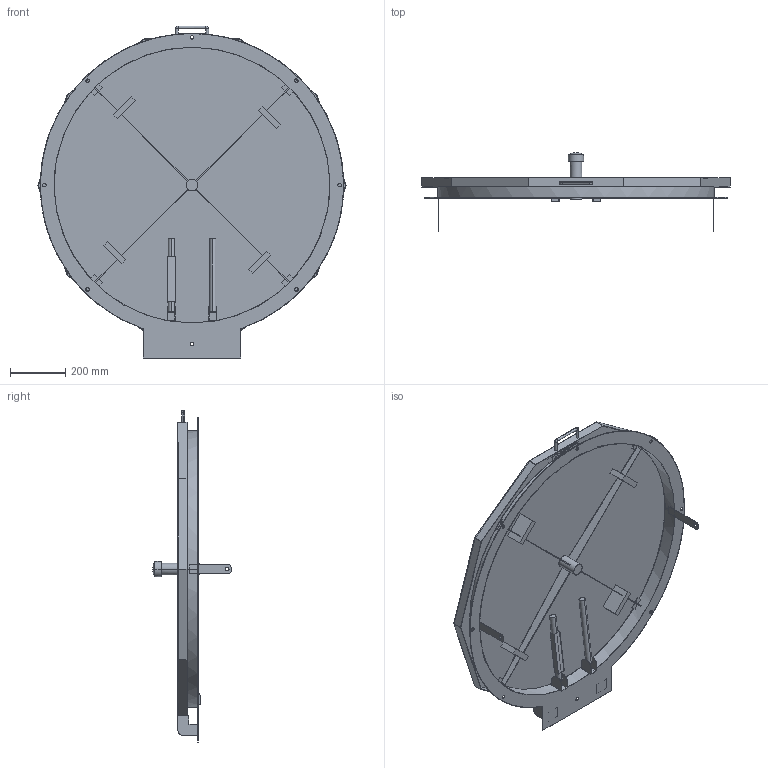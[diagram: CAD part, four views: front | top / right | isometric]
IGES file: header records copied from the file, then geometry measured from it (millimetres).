
Start section:  PTC IGES file: 52428262.igs
Global section: file name: 52428262.igs; native system: Creo Parametric by PTC Inc.; preprocessor: 2022162; author: wep; organization: Unknown; date: 20250805.125246; units: millimetre
Bounding box: 1112.45 x 284 x 1197.78 mm (x, y, z)
Surface area: 3085023.7 mm2 (no closed solid volume)
Topology: 0 solids, 0 shells, 805 faces, 4332 edges, 4326 vertices
Faces by surface type: bspline 471, extrusion 275, revolution 59
